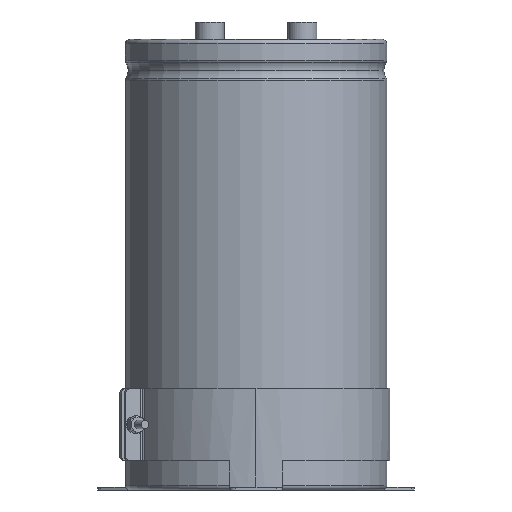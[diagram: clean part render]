
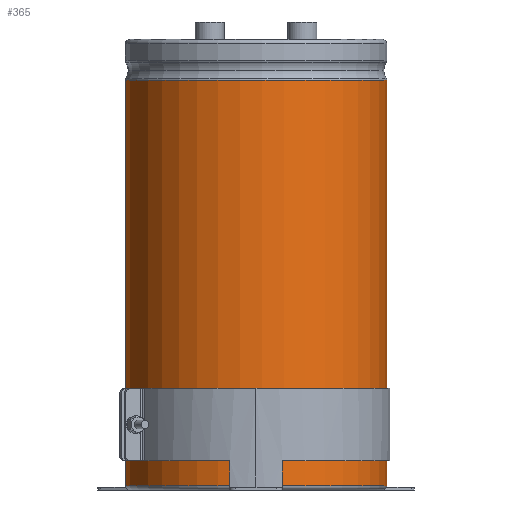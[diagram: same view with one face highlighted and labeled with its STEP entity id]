
A CAD part, left-side view. The second image highlights one B-rep face of the part: STEP entity #365.
In plain terms, the highlighted cylindrical face has radius 45 mm (diameter 90 mm), a partial arc.
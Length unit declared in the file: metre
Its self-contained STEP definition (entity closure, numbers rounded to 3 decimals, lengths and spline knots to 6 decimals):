
#365=ADVANCED_FACE('0:237',(#597),#598,.T.);
#597=FACE_OUTER_BOUND('',#1082,.T.);
#598=CYLINDRICAL_SURFACE('',#1083,0.045);
#1082=EDGE_LOOP('',(#2038,#2039,#2040,#2041));
#1083=AXIS2_PLACEMENT_3D('',#2042,#2043,#2044);
#2038=ORIENTED_EDGE('',*,*,#2995,.T.);
#2039=ORIENTED_EDGE('',*,*,#3004,.T.);
#2040=ORIENTED_EDGE('',*,*,#3006,.T.);
#2041=ORIENTED_EDGE('',*,*,#3007,.F.);
#2042=CARTESIAN_POINT('',(0.0,0.0,0.0));
#2043=DIRECTION('',(-0.0,0.0,1.0));
#2044=DIRECTION('',(0.0,1.0,0.0));
#2995=EDGE_CURVE('',#5626,#5634,#5635,.T.);
#3004=EDGE_CURVE('0:309',#5634,#5645,#5647,.T.);
#3006=EDGE_CURVE('0:312',#5645,#5649,#5650,.T.);
#3007=EDGE_CURVE('0:315',#5626,#5649,#5651,.T.);
#5626=VERTEX_POINT('',#6662);
#5634=VERTEX_POINT('',#6670);
#5635=LINE('',#6671,#6672);
#5645=VERTEX_POINT('',#6683);
#5647=CIRCLE('',#6685,0.045);
#5649=VERTEX_POINT('',#6687);
#5650=LINE('',#6688,#6689);
#5651=CIRCLE('',#6690,0.045);
#6662=CARTESIAN_POINT('',(0.,-0.045,0.0015));
#6670=CARTESIAN_POINT('',(0.,-0.045,0.1409));
#6671=CARTESIAN_POINT('',(0.,-0.045,0.0712));
#6672=VECTOR('',#8209,1.0);
#6683=CARTESIAN_POINT('',(-0.004,0.044822,0.1409));
#6685=AXIS2_PLACEMENT_3D('',#8226,#8227,#8228);
#6687=CARTESIAN_POINT('',(-0.004,0.044822,0.0015));
#6688=CARTESIAN_POINT('',(-0.004,0.044822,0.1409));
#6689=VECTOR('',#8229,0.001);
#6690=AXIS2_PLACEMENT_3D('',#8230,#8231,#8232);
#8209=DIRECTION('',(0.0,0.0,1.0));
#8226=CARTESIAN_POINT('',(0.0,0.0,0.1409));
#8227=DIRECTION('',(0.0,0.0,-1.0));
#8228=DIRECTION('',(0.0,1.0,0.0));
#8229=DIRECTION('',(0.0,0.0,-1.0));
#8230=CARTESIAN_POINT('',(0.0,0.0,0.0015));
#8231=DIRECTION('',(0.0,0.0,-1.0));
#8232=DIRECTION('',(0.0,1.0,0.0));
